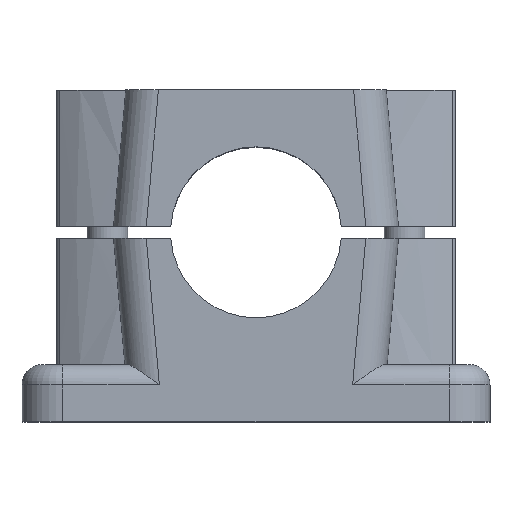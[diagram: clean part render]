
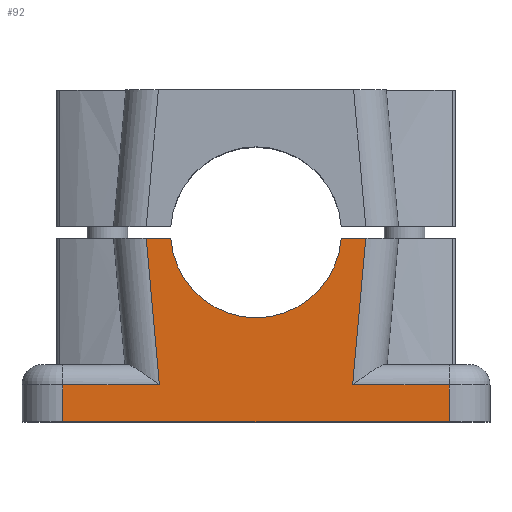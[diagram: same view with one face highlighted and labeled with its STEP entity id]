
A CAD part, top view. The second image highlights one B-rep face of the part: STEP entity #92.
In plain terms, the highlighted planar face has unit normal (0, 0, 1).
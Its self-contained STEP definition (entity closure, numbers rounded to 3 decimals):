
#92 = ADVANCED_FACE( '', ( #339 ), #340, .T. );
#339 = FACE_OUTER_BOUND( '', #839, .T. );
#340 = PLANE( '', #840 );
#839 = EDGE_LOOP( '', ( #1453, #1454, #1455, #1456, #1457, #1458, #1459, #1460, #1461, #1462 ) );
#840 = AXIS2_PLACEMENT_3D( '', #1463, #1464, #1465 );
#1453 = ORIENTED_EDGE( '', *, *, #3200, .T. );
#1454 = ORIENTED_EDGE( '', *, *, #3201, .T. );
#1455 = ORIENTED_EDGE( '', *, *, #3202, .T. );
#1456 = ORIENTED_EDGE( '', *, *, #3203, .F. );
#1457 = ORIENTED_EDGE( '', *, *, #3204, .T. );
#1458 = ORIENTED_EDGE( '', *, *, #3205, .T. );
#1459 = ORIENTED_EDGE( '', *, *, #3171, .F. );
#1460 = ORIENTED_EDGE( '', *, *, #3206, .F. );
#1461 = ORIENTED_EDGE( '', *, *, #3120, .T. );
#1462 = ORIENTED_EDGE( '', *, *, #3207, .T. );
#1463 = CARTESIAN_POINT( '', ( 0., 0., 38. ) );
#1464 = DIRECTION( '', ( 0., 0., 1. ) );
#1465 = DIRECTION( '', ( 1., 0., 0. ) );
#3120 = EDGE_CURVE( '', #3701, #3699, #3702, .T. );
#3171 = EDGE_CURVE( '', #3791, #3779, #3793, .T. );
#3200 = EDGE_CURVE( '', #3850, #3851, #3852, .T. );
#3201 = EDGE_CURVE( '', #3851, #3853, #3854, .F. );
#3202 = EDGE_CURVE( '', #3853, #3855, #3856, .T. );
#3203 = EDGE_CURVE( '', #3857, #3855, #3858, .T. );
#3204 = EDGE_CURVE( '', #3857, #3859, #3860, .T. );
#3205 = EDGE_CURVE( '', #3859, #3779, #3861, .T. );
#3206 = EDGE_CURVE( '', #3701, #3791, #3862, .T. );
#3207 = EDGE_CURVE( '', #3699, #3850, #3863, .T. );
#3699 = VERTEX_POINT( '', #4702 );
#3701 = VERTEX_POINT( '', #4725 );
#3702 = LINE( '', #4726, #4727 );
#3779 = VERTEX_POINT( '', #4822 );
#3791 = VERTEX_POINT( '', #4837 );
#3793 = LINE( '', #4839, #4840 );
#3850 = VERTEX_POINT( '', #4909 );
#3851 = VERTEX_POINT( '', #4910 );
#3852 = LINE( '', #4911, #4912 );
#3853 = VERTEX_POINT( '', #4913 );
#3854 = CIRCLE( '', #4914, 21. );
#3855 = VERTEX_POINT( '', #4915 );
#3856 = LINE( '', #4916, #4917 );
#3857 = VERTEX_POINT( '', #4918 );
#3858 = LINE( '', #4919, #4920 );
#3859 = VERTEX_POINT( '', #4921 );
#3860 = LINE( '', #4922, #4923 );
#3861 = LINE( '', #4924, #4925 );
#3862 = LINE( '', #4926, #4927 );
#3863 = LINE( '', #4928, #4929 );
#4702 = CARTESIAN_POINT( '', ( 23.749, -37.5, 38. ) );
#4725 = CARTESIAN_POINT( '', ( 47.5, -37.5, 38. ) );
#4726 = CARTESIAN_POINT( '', ( 47.5, -37.5, 38. ) );
#4727 = VECTOR( '', #6059, 1000. );
#4822 = CARTESIAN_POINT( '', ( -47.5, -46.5, 38. ) );
#4837 = CARTESIAN_POINT( '', ( 47.5, -46.5, 38. ) );
#4839 = CARTESIAN_POINT( '', ( 47.5, -46.5, 38. ) );
#4840 = VECTOR( '', #6168, 1000. );
#4909 = CARTESIAN_POINT( '', ( 26.973, -1.5, 38. ) );
#4910 = CARTESIAN_POINT( '', ( 20.946, -1.5, 38. ) );
#4911 = CARTESIAN_POINT( '', ( 0., -1.5, 38. ) );
#4912 = VECTOR( '', #6229, 1000. );
#4913 = CARTESIAN_POINT( '', ( -20.946, -1.5, 38. ) );
#4914 = AXIS2_PLACEMENT_3D( '', #6230, #6231, #6232 );
#4915 = CARTESIAN_POINT( '', ( -26.973, -1.5, 38. ) );
#4916 = CARTESIAN_POINT( '', ( 0., -1.5, 38. ) );
#4917 = VECTOR( '', #6233, 1000. );
#4918 = CARTESIAN_POINT( '', ( -23.749, -37.5, 38. ) );
#4919 = CARTESIAN_POINT( '', ( -23.693, -38.131, 38. ) );
#4920 = VECTOR( '', #6234, 1000. );
#4921 = CARTESIAN_POINT( '', ( -47.5, -37.5, 38. ) );
#4922 = CARTESIAN_POINT( '', ( 47.5, -37.5, 38. ) );
#4923 = VECTOR( '', #6235, 1000. );
#4924 = CARTESIAN_POINT( '', ( -47.5, -37.5, 38. ) );
#4925 = VECTOR( '', #6236, 1000. );
#4926 = CARTESIAN_POINT( '', ( 47.5, -37.5, 38. ) );
#4927 = VECTOR( '', #6237, 1000. );
#4928 = CARTESIAN_POINT( '', ( 23.693, -38.131, 38. ) );
#4929 = VECTOR( '', #6238, 1000. );
#6059 = DIRECTION( '', ( -1., 0., 0. ) );
#6168 = DIRECTION( '', ( -1., 0., 0. ) );
#6229 = DIRECTION( '', ( -1., 0., 0. ) );
#6230 = CARTESIAN_POINT( '', ( 0., 0., 38. ) );
#6231 = DIRECTION( '', ( 0., 0., 1. ) );
#6232 = DIRECTION( '', ( 1., 0., 0. ) );
#6233 = DIRECTION( '', ( -1., 0., 0. ) );
#6234 = DIRECTION( '', ( -0.089, 0.996, 0. ) );
#6235 = DIRECTION( '', ( -1., 0., 0. ) );
#6236 = DIRECTION( '', ( 0., -1., 0. ) );
#6237 = DIRECTION( '', ( 0., -1., 0. ) );
#6238 = DIRECTION( '', ( 0.089, 0.996, 0. ) );
